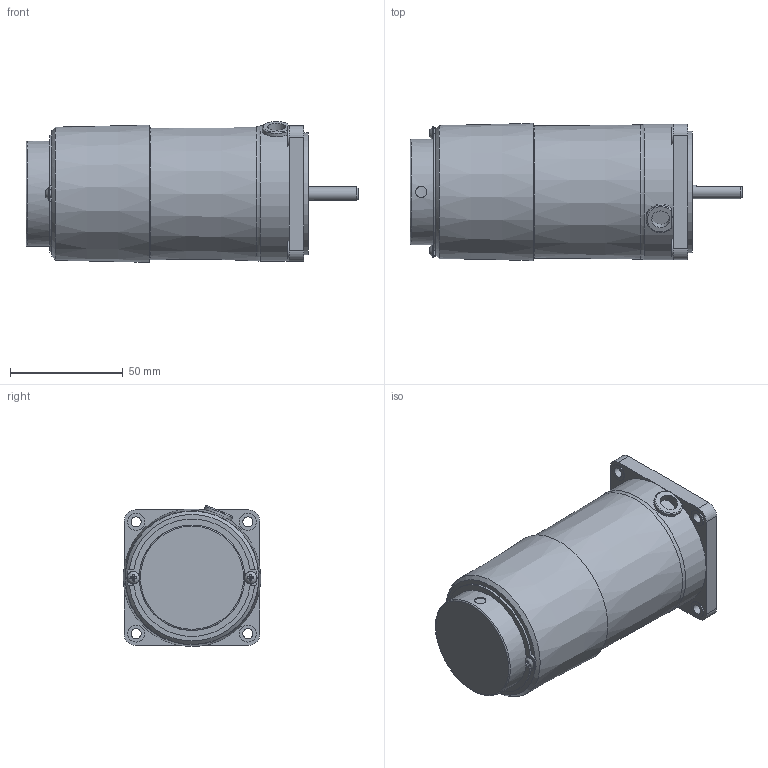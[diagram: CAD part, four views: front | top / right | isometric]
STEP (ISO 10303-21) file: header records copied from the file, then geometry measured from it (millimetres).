
FILE_DESCRIPTION((''),'2;1');
FILE_NAME('D:\김성묵\업무폴더\개발 파일\프로젝트 개발 AB등급\AC표준형 개발자료\90각 이하 표준형 개발\도면작성 자료\3D 도면\홈페이지용 3D 파일\6W MOTOR\ES TYPE\S6R06D-ES.stp','2015-03-30T19:35:04',('smkim'),(''),'Autodesk Inventor 2012','Autodesk Inventor 2012','');
FILE_SCHEMA(('AUTOMOTIVE_DESIGN { 1 0 10303 214 1 1 1 1 }'));
Length unit declared in the file: millimetre
Products named in the file (1): 부품89
Bounding box: 147 x 60.75 x 62.29 mm (x, y, z)
Volume: 334108.7 mm3; surface area: 32966 mm2
Topology: 1 solids, 3 shells, 156 faces, 407 edges, 263 vertices
Faces by surface type: plane 93, cylinder 49, torus 7, cone 5, bspline 2
Full cylindrical faces by diameter (mm): 3 x2, 4.5 x4, 5 x1, 6 x1, 7.5 x4, 8 x1, 10.1 x1, 25 x1, 46.7 x1, 54 x1, 58.5 x1, 60 x1
Entity records: 5023 total; most frequent: CARTESIAN_POINT 1236, DIRECTION 763, ORIENTED_EDGE 736, EDGE_CURVE 368, AXIS2_PLACEMENT_3D 284, VERTEX_POINT 253, EDGE_LOOP 213, VECTOR 195
